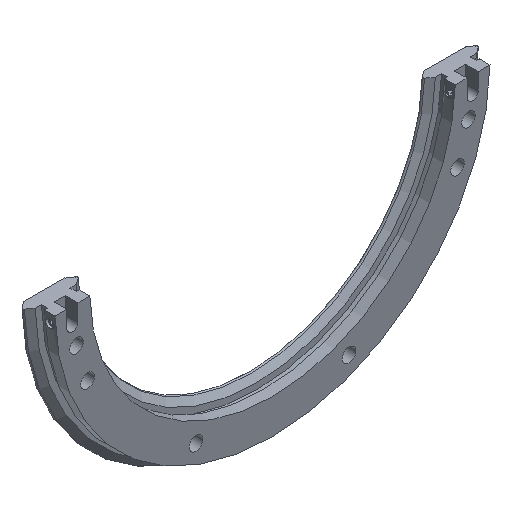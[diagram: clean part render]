
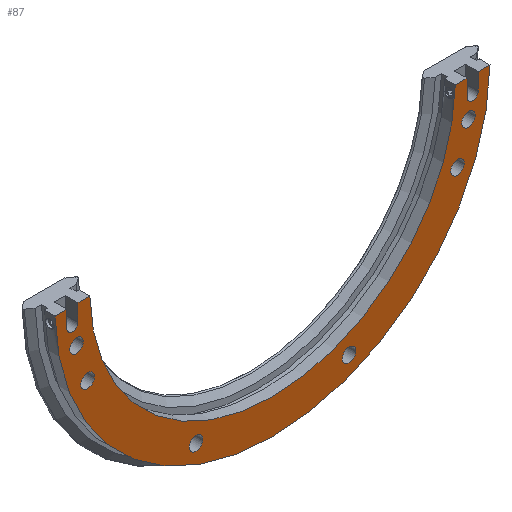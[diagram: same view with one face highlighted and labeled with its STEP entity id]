
A CAD part, isometric view. The second image highlights one B-rep face of the part: STEP entity #87.
In plain terms, the highlighted planar face has unit normal (0, -1, 0).
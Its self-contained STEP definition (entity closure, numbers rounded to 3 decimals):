
#87 = ADVANCED_FACE( '', ( #187, #188, #189, #190, #191, #192, #193 ), #194, .T. );
#187 = FACE_BOUND( '', #390, .T. );
#188 = FACE_BOUND( '', #391, .T. );
#189 = FACE_BOUND( '', #392, .T. );
#190 = FACE_BOUND( '', #393, .T. );
#191 = FACE_BOUND( '', #394, .T. );
#192 = FACE_BOUND( '', #395, .T. );
#193 = FACE_OUTER_BOUND( '', #396, .T. );
#194 = PLANE( '', #397 );
#390 = EDGE_LOOP( '', ( #648 ) );
#391 = EDGE_LOOP( '', ( #649 ) );
#392 = EDGE_LOOP( '', ( #650 ) );
#393 = EDGE_LOOP( '', ( #651 ) );
#394 = EDGE_LOOP( '', ( #652 ) );
#395 = EDGE_LOOP( '', ( #653 ) );
#396 = EDGE_LOOP( '', ( #654, #655, #656, #657, #658, #659, #660, #661, #662, #663, #664, #665 ) );
#397 = AXIS2_PLACEMENT_3D( '', #666, #667, #668 );
#648 = ORIENTED_EDGE( '', *, *, #1196, .F. );
#649 = ORIENTED_EDGE( '', *, *, #1197, .F. );
#650 = ORIENTED_EDGE( '', *, *, #1198, .F. );
#651 = ORIENTED_EDGE( '', *, *, #1199, .F. );
#652 = ORIENTED_EDGE( '', *, *, #1188, .F. );
#653 = ORIENTED_EDGE( '', *, *, #1192, .F. );
#654 = ORIENTED_EDGE( '', *, *, #1200, .T. );
#655 = ORIENTED_EDGE( '', *, *, #1201, .T. );
#656 = ORIENTED_EDGE( '', *, *, #1155, .T. );
#657 = ORIENTED_EDGE( '', *, *, #1202, .F. );
#658 = ORIENTED_EDGE( '', *, *, #1203, .T. );
#659 = ORIENTED_EDGE( '', *, *, #1184, .T. );
#660 = ORIENTED_EDGE( '', *, *, #1181, .T. );
#661 = ORIENTED_EDGE( '', *, *, #1186, .T. );
#662 = ORIENTED_EDGE( '', *, *, #1204, .T. );
#663 = ORIENTED_EDGE( '', *, *, #1205, .T. );
#664 = ORIENTED_EDGE( '', *, *, #1159, .T. );
#665 = ORIENTED_EDGE( '', *, *, #1206, .T. );
#666 = CARTESIAN_POINT( '', ( -65.3, 0., 0. ) );
#667 = DIRECTION( '', ( 0., -1., 0. ) );
#668 = DIRECTION( '', ( 0., 0., -1. ) );
#1155 = EDGE_CURVE( '', #1332, #1333, #1334, .T. );
#1159 = EDGE_CURVE( '', #1341, #1339, #1342, .T. );
#1181 = EDGE_CURVE( '', #1384, #1385, #1386, .T. );
#1184 = EDGE_CURVE( '', #1389, #1384, #1390, .T. );
#1186 = EDGE_CURVE( '', #1385, #1392, #1393, .T. );
#1188 = EDGE_CURVE( '', #1395, #1395, #1396, .T. );
#1192 = EDGE_CURVE( '', #1403, #1403, #1404, .T. );
#1196 = EDGE_CURVE( '', #1411, #1411, #1412, .T. );
#1197 = EDGE_CURVE( '', #1413, #1413, #1414, .T. );
#1198 = EDGE_CURVE( '', #1415, #1415, #1416, .T. );
#1199 = EDGE_CURVE( '', #1417, #1417, #1418, .T. );
#1200 = EDGE_CURVE( '', #1419, #1420, #1421, .T. );
#1201 = EDGE_CURVE( '', #1420, #1332, #1422, .T. );
#1202 = EDGE_CURVE( '', #1423, #1333, #1424, .T. );
#1203 = EDGE_CURVE( '', #1423, #1389, #1425, .T. );
#1204 = EDGE_CURVE( '', #1392, #1426, #1427, .T. );
#1205 = EDGE_CURVE( '', #1426, #1341, #1428, .T. );
#1206 = EDGE_CURVE( '', #1339, #1419, #1429, .T. );
#1332 = VERTEX_POINT( '', #1636 );
#1333 = VERTEX_POINT( '', #1637 );
#1334 = LINE( '', #1638, #1639 );
#1339 = VERTEX_POINT( '', #1646 );
#1341 = VERTEX_POINT( '', #1649 );
#1342 = LINE( '', #1650, #1651 );
#1384 = VERTEX_POINT( '', #1780 );
#1385 = VERTEX_POINT( '', #1781 );
#1386 = CIRCLE( '', #1782, 2. );
#1389 = VERTEX_POINT( '', #1787 );
#1390 = LINE( '', #1788, #1789 );
#1392 = VERTEX_POINT( '', #1792 );
#1393 = LINE( '', #1793, #1794 );
#1395 = VERTEX_POINT( '', #1797 );
#1396 = CIRCLE( '', #1798, 2.45 );
#1403 = VERTEX_POINT( '', #1805 );
#1404 = CIRCLE( '', #1806, 2.45 );
#1411 = VERTEX_POINT( '', #1813 );
#1412 = CIRCLE( '', #1814, 2.45 );
#1413 = VERTEX_POINT( '', #1815 );
#1414 = CIRCLE( '', #1816, 2.45 );
#1415 = VERTEX_POINT( '', #1817 );
#1416 = CIRCLE( '', #1818, 2.45 );
#1417 = VERTEX_POINT( '', #1819 );
#1418 = CIRCLE( '', #1820, 2.45 );
#1419 = VERTEX_POINT( '', #1821 );
#1420 = VERTEX_POINT( '', #1822 );
#1421 = CIRCLE( '', #1823, 2. );
#1422 = LINE( '', #1824, #1825 );
#1423 = VERTEX_POINT( '', #1826 );
#1424 = CIRCLE( '', #1827, 65.3 );
#1425 = LINE( '', #1828, #1829 );
#1426 = VERTEX_POINT( '', #1830 );
#1427 = LINE( '', #1831, #1832 );
#1428 = CIRCLE( '', #1833, 77.7 );
#1429 = LINE( '', #1834, #1835 );
#1636 = CARTESIAN_POINT( '', ( 69.5, 0., -1.5 ) );
#1637 = CARTESIAN_POINT( '', ( 65.283, 0., -1.5 ) );
#1638 = CARTESIAN_POINT( '', ( 81.685, 0., -1.5 ) );
#1639 = VECTOR( '', #2304, 1000. );
#1646 = CARTESIAN_POINT( '', ( 73.5, 0., -1.5 ) );
#1649 = CARTESIAN_POINT( '', ( 77.686, 0., -1.5 ) );
#1650 = CARTESIAN_POINT( '', ( 81.685, 0., -1.5 ) );
#1651 = VECTOR( '', #2308, 1000. );
#1780 = CARTESIAN_POINT( '', ( -69.5, 0., -7.5 ) );
#1781 = CARTESIAN_POINT( '', ( -73.5, 0., -7.5 ) );
#1782 = AXIS2_PLACEMENT_3D( '', #2327, #2328, #2329 );
#1787 = CARTESIAN_POINT( '', ( -69.5, 0., -1.5 ) );
#1788 = CARTESIAN_POINT( '', ( -69.5, 0., 0. ) );
#1789 = VECTOR( '', #2332, 1000. );
#1792 = CARTESIAN_POINT( '', ( -73.5, 0., -1.5 ) );
#1793 = CARTESIAN_POINT( '', ( -73.5, 0., -7.5 ) );
#1794 = VECTOR( '', #2334, 1000. );
#1797 = CARTESIAN_POINT( '', ( -66.057, 0., -29.812 ) );
#1798 = AXIS2_PLACEMENT_3D( '', #2336, #2337, #2338 );
#1805 = CARTESIAN_POINT( '', ( -27.362, 0., -68.507 ) );
#1806 = AXIS2_PLACEMENT_3D( '', #2348, #2349, #2350 );
#1813 = CARTESIAN_POINT( '', ( 70.014, 0., -16.949 ) );
#1814 = AXIS2_PLACEMENT_3D( '', #2360, #2361, #2362 );
#1815 = CARTESIAN_POINT( '', ( -70.014, 0., -16.949 ) );
#1816 = AXIS2_PLACEMENT_3D( '', #2363, #2364, #2365 );
#1817 = CARTESIAN_POINT( '', ( 66.057, 0., -29.812 ) );
#1818 = AXIS2_PLACEMENT_3D( '', #2366, #2367, #2368 );
#1819 = CARTESIAN_POINT( '', ( 27.362, 0., -68.507 ) );
#1820 = AXIS2_PLACEMENT_3D( '', #2369, #2370, #2371 );
#1821 = CARTESIAN_POINT( '', ( 73.5, 0., -7.5 ) );
#1822 = CARTESIAN_POINT( '', ( 69.5, 0., -7.5 ) );
#1823 = AXIS2_PLACEMENT_3D( '', #2372, #2373, #2374 );
#1824 = CARTESIAN_POINT( '', ( 69.5, 0., -7.5 ) );
#1825 = VECTOR( '', #2375, 1000. );
#1826 = CARTESIAN_POINT( '', ( -65.283, 0., -1.5 ) );
#1827 = AXIS2_PLACEMENT_3D( '', #2376, #2377, #2378 );
#1828 = CARTESIAN_POINT( '', ( 81.685, 0., -1.5 ) );
#1829 = VECTOR( '', #2379, 1000. );
#1830 = CARTESIAN_POINT( '', ( -77.686, 0., -1.5 ) );
#1831 = CARTESIAN_POINT( '', ( 81.685, 0., -1.5 ) );
#1832 = VECTOR( '', #2380, 1000. );
#1833 = AXIS2_PLACEMENT_3D( '', #2381, #2382, #2383 );
#1834 = CARTESIAN_POINT( '', ( 73.5, 0., 0. ) );
#1835 = VECTOR( '', #2384, 1000. );
#2304 = DIRECTION( '', ( -1., 0., 0. ) );
#2308 = DIRECTION( '', ( -1., 0., 0. ) );
#2327 = CARTESIAN_POINT( '', ( -71.5, 0., -7.5 ) );
#2328 = DIRECTION( '', ( 0., 1., 0. ) );
#2329 = DIRECTION( '', ( 1., 0., 0. ) );
#2332 = DIRECTION( '', ( 0., 0., -1. ) );
#2334 = DIRECTION( '', ( 0., 0., 1. ) );
#2336 = CARTESIAN_POINT( '', ( -66.057, 0., -27.362 ) );
#2337 = DIRECTION( '', ( 0., -1., 0. ) );
#2338 = DIRECTION( '', ( 0., 0., -1. ) );
#2348 = CARTESIAN_POINT( '', ( -27.362, 0., -66.057 ) );
#2349 = DIRECTION( '', ( 0., -1., 0. ) );
#2350 = DIRECTION( '', ( 0., 0., -1. ) );
#2360 = CARTESIAN_POINT( '', ( 70.014, 0., -14.499 ) );
#2361 = DIRECTION( '', ( 0., -1., 0. ) );
#2362 = DIRECTION( '', ( 0., 0., -1. ) );
#2363 = CARTESIAN_POINT( '', ( -70.014, 0., -14.499 ) );
#2364 = DIRECTION( '', ( 0., -1., 0. ) );
#2365 = DIRECTION( '', ( 0., 0., -1. ) );
#2366 = CARTESIAN_POINT( '', ( 66.057, 0., -27.362 ) );
#2367 = DIRECTION( '', ( 0., -1., 0. ) );
#2368 = DIRECTION( '', ( 0., 0., -1. ) );
#2369 = CARTESIAN_POINT( '', ( 27.362, 0., -66.057 ) );
#2370 = DIRECTION( '', ( 0., -1., 0. ) );
#2371 = DIRECTION( '', ( 0., 0., -1. ) );
#2372 = CARTESIAN_POINT( '', ( 71.5, 0., -7.5 ) );
#2373 = DIRECTION( '', ( 0., 1., 0. ) );
#2374 = DIRECTION( '', ( 1., 0., 0. ) );
#2375 = DIRECTION( '', ( 0., 0., 1. ) );
#2376 = CARTESIAN_POINT( '', ( 0., 0., 0. ) );
#2377 = DIRECTION( '', ( 0., -1., 0. ) );
#2378 = DIRECTION( '', ( 0., 0., -1. ) );
#2379 = DIRECTION( '', ( -1., 0., 0. ) );
#2380 = DIRECTION( '', ( -1., 0., 0. ) );
#2381 = CARTESIAN_POINT( '', ( 0., 0., 0. ) );
#2382 = DIRECTION( '', ( 0., -1., 0. ) );
#2383 = DIRECTION( '', ( 0., 0., -1. ) );
#2384 = DIRECTION( '', ( 0., 0., -1. ) );
